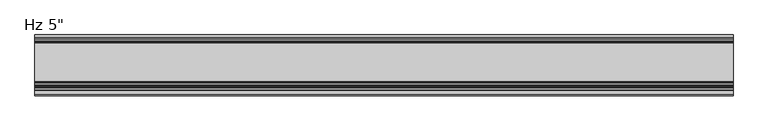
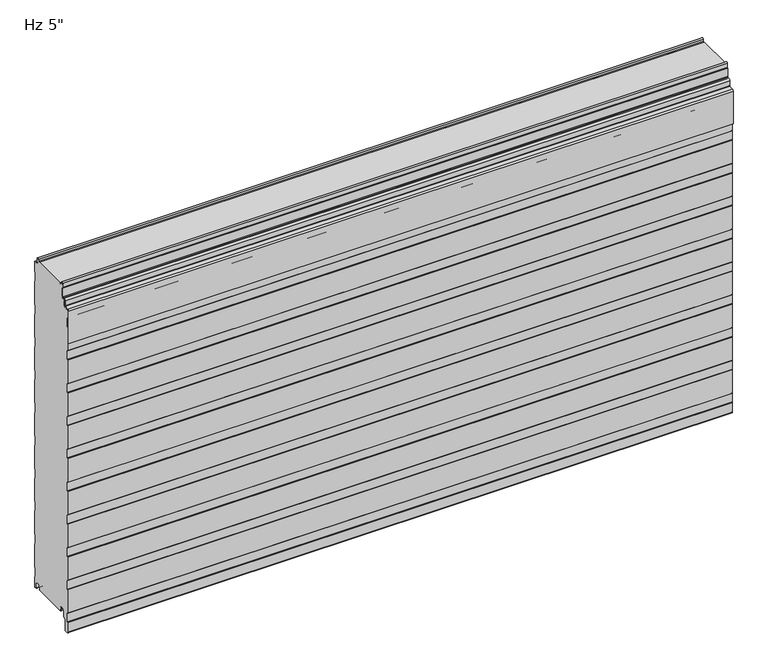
"""IFC4 building model written with IfcOpenShell, lengths in millimetres: plate geometry."""

from ifc_helpers import new_model, si_unit, point, frame, frame_2d, origin, place, context, project, spatial, polyline, circle_curve, trimmed, segment, composite_curve, outline, extrude, source, transform, mapped, element, save
from ifc_brep_helpers import plane_surface, cylinder_surface, revolved_surface, advanced_brep


def plate_844c534e(model_context):
    return source(origin(), model_context, "Body", "SolidModel", [
        advanced_brep(
        [(730.0, -105.9008679, 735.9534183), (730.0, -105.9008679, 754.6986183), (730.0, -107.4248679, 754.6986183), (730.0, -107.4248679, 735.9534183), (730.0, -108.9488679, 734.4294183), (730.0, -112.0476679, 734.4294183), (730.0, -115.5020679, 730.9750183), (730.0, -115.5020679, 719.762461), (730.0, -116.1976552, 719.0033606), (730.0, -125.7416507, 717.808533), (730.0, -128.524, 714.7721316), (730.0, -128.5360323, 639.2048183), (730.0, -127.0, 639.2048183), (730.0, -127.0, 714.7721316), (730.0, -125.6088254, 716.2903323), (730.0, -116.0648299, 717.4851599), (730.0, -113.9780679, 719.762461), (730.0, -113.9780679, 730.9750183), (730.0, -112.0476679, 732.9054183), (730.0, -108.9488679, 732.9054183), (-730.0, -105.9008679, 735.9534183), (-730.0, -108.9488679, 732.9054183), (-730.0, -112.0476679, 732.9054183), (-730.0, -113.9780679, 730.9750183), (-730.0, -113.9780679, 719.762461), (-730.0, -116.0648299, 717.4851599), (-730.0, -125.6088254, 716.2903323), (-730.0, -127.0, 714.7721316), (-730.0, -127.0, 639.2048183), (-730.0, -128.5360323, 639.2048183), (-730.0, -128.5360323, 714.7721316), (-730.0, -125.7416507, 717.808533), (-730.0, -116.1976552, 719.0033606), (-730.0, -115.5020679, 719.762461), (-730.0, -115.5020679, 730.9750183), (-730.0, -112.0476679, 734.4294183), (-730.0, -108.9488679, 734.4294183), (-730.0, -107.4248679, 735.9534183), (-730.0, -107.4248679, 754.6986183), (-730.0, -105.9008679, 754.6986183)],
        [
            (0, 1),
            (1, 2),
            (2, 3),
            (3, 4, circle_curve(frame((730.0, -108.9488679, 735.9534183), z_axis=(-1.0, 0.0, 0.0), x_axis=(0.0, 1.0, 0.0)), 1.524)),
            (4, 5),
            (5, 6, circle_curve(frame((730.0, -112.0476679, 730.9750183), z_axis=(1.0, 0.0, 0.0), x_axis=(0.0, 1.0, 0.0)), 3.4544)),
            (6, 7),
            (7, 8, circle_curve(frame((730.0, -116.2640679, 719.762461), z_axis=(-1.0, 0.0, 0.0), x_axis=(0.0, 1.0, 0.0)), 0.762)),
            (8, 9),
            (9, 10, circle_curve(frame((730.0, -125.476, 714.7721316), z_axis=(1.0, 0.0, 0.0), x_axis=(0.0, 1.0, 0.0)), 3.048)),
            (10, 11),
            (11, 12),
            (12, 13),
            (13, 14, circle_curve(frame((730.0, -125.476, 714.7721316), z_axis=(-1.0, 0.0, 0.0), x_axis=(0.0, 1.0, 0.0)), 1.524)),
            (14, 15),
            (15, 16, circle_curve(frame((730.0, -116.2640679, 719.762461), z_axis=(1.0, 0.0, 0.0), x_axis=(0.0, 1.0, 0.0)), 2.286)),
            (16, 17),
            (17, 18, circle_curve(frame((730.0, -112.0476679, 730.9750183), z_axis=(-1.0, 0.0, 0.0), x_axis=(0.0, 1.0, 0.0)), 1.9304)),
            (18, 19),
            (19, 0, circle_curve(frame((730.0, -108.9488679, 735.9534183), z_axis=(1.0, 0.0, 0.0), x_axis=(0.0, 1.0, 0.0)), 3.048)),
            (20, 21, circle_curve(frame((-730.0, -108.9488679, 735.9534183), z_axis=(-1.0, 0.0, 0.0), x_axis=(0.0, 1.0, 0.0)), 3.048)),
            (21, 22),
            (22, 23, circle_curve(frame((-730.0, -112.0476679, 730.9750183), z_axis=(1.0, 0.0, 0.0), x_axis=(0.0, 1.0, 0.0)), 1.9304)),
            (23, 24),
            (24, 25, circle_curve(frame((-730.0, -116.2640679, 719.762461), z_axis=(-1.0, 0.0, 0.0), x_axis=(0.0, 1.0, 0.0)), 2.286)),
            (25, 26),
            (26, 27, circle_curve(frame((-730.0, -125.476, 714.7721316), z_axis=(1.0, 0.0, 0.0), x_axis=(0.0, 1.0, 0.0)), 1.524)),
            (27, 28),
            (28, 29),
            (29, 30),
            (30, 31, circle_curve(frame((-730.0, -125.476, 714.7721316), z_axis=(-1.0, 0.0, 0.0), x_axis=(0.0, 1.0, 0.0)), 3.048)),
            (31, 32),
            (32, 33, circle_curve(frame((-730.0, -116.2640679, 719.762461), z_axis=(1.0, 0.0, 0.0), x_axis=(0.0, 1.0, 0.0)), 0.762)),
            (33, 34),
            (34, 35, circle_curve(frame((-730.0, -112.0476679, 730.9750183), z_axis=(-1.0, 0.0, 0.0), x_axis=(0.0, 1.0, 0.0)), 3.4544)),
            (35, 36),
            (36, 37, circle_curve(frame((-730.0, -108.9488679, 735.9534183), z_axis=(1.0, 0.0, 0.0), x_axis=(0.0, 1.0, 0.0)), 1.524)),
            (37, 38),
            (38, 39),
            (39, 20),
            (2, 38),
            (37, 3),
            (15, 25),
            (24, 16),
            (7, 33),
            (32, 8),
            (5, 35),
            (34, 6),
            (1, 39),
            (36, 4),
            (9, 31),
            (30, 10),
            (13, 27),
            (26, 14),
            (0, 20),
            (12, 28),
            (29, 11),
            (23, 17),
            (18, 22),
            (21, 19),
        ],
        [
            plane_surface(frame((730.0, -127.0, 754.6986183), z_axis=(1.0, 0.0, 0.0), x_axis=(0.0, 0.0, -1.0))),
            plane_surface(frame((-730.0, -127.0, 754.6986183), z_axis=(-1.0, 0.0, 0.0), x_axis=(0.0, 0.0, -1.0))),
            plane_surface(frame((730.0, -107.4248679, 735.9534183), z_axis=(0.0, -1.0, 0.0), x_axis=(-1.0, 0.0, 0.0))),
            cylinder_surface(frame((730.0, -116.2640679, 719.762461), z_axis=(1.0, 0.0, 0.0), x_axis=(0.0, 1.0, 0.0)), 2.286),
            revolved_surface(polyline([(-730.0, -115.5020679, 719.762461), (730.0, -115.5020679, 719.762461)]), (730.0, -116.2640679, 719.762461), (-1.0, 0.0, 0.0)),
            cylinder_surface(frame((730.0, -112.0476679, 730.9750183), z_axis=(1.0, 0.0, 0.0), x_axis=(0.0, 1.0, 0.0)), 3.4544),
            plane_surface(frame((730.0, -107.4248679, 754.6986183), z_axis=(0.0, 0.0, 1.0), x_axis=(-1.0, 0.0, 0.0))),
            revolved_surface(polyline([(-730.0, -107.4248679, 735.9534183), (730.0, -107.4248679, 735.9534183)]), (730.0, -108.9488679, 735.9534183), (-1.0, 0.0, 0.0)),
            cylinder_surface(frame((730.0, -125.476, 714.7721316), z_axis=(1.0, 0.0, 0.0), x_axis=(0.0, 1.0, 0.0)), 3.048),
            revolved_surface(polyline([(-730.0, -123.952, 714.7721316), (730.0, -123.952, 714.7721316)]), (730.0, -125.476, 714.7721316), (-1.0, 0.0, 0.0)),
            plane_surface(frame((730.0, -105.9008679, 754.6986183), z_axis=(0.0, 1.0, 0.0), x_axis=(-1.0, 0.0, 0.0))),
            plane_surface(frame((730.0, -116.0648299, 717.4851599), z_axis=(0.0, 0.12422187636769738, -0.9922544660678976), x_axis=(-1.0, 0.0, 0.0))),
            plane_surface(frame((730.0, -127.0, 714.7721316), z_axis=(0.0, 1.0, 0.0), x_axis=(-1.0, 0.0, 0.0))),
            plane_surface(frame((730.0, -125.7416507, 717.808533), z_axis=(0.0, -0.12422187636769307, 0.9922544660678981), x_axis=(-1.0, 0.0, 0.0))),
            plane_surface(frame((730.0, -112.0476679, 734.4294183), z_axis=(0.0, 0.0, 1.0), x_axis=(-1.0, 0.0, 0.0))),
            plane_surface(frame((730.0, -128.5360323, 639.2048183), z_axis=(0.0, -1.0, 0.0), x_axis=(-1.0, 0.0, 0.0))),
            plane_surface(frame((730.0, -127.0, 639.2048183), z_axis=(0.0, 0.0, -1.0), x_axis=(-1.0, 0.0, 0.0))),
            plane_surface(frame((730.0, -113.9780679, 730.9750183), z_axis=(0.0, 1.0, 0.0), x_axis=(-1.0, 0.0, 0.0))),
            plane_surface(frame((730.0, -108.9488679, 732.9054183), z_axis=(0.0, 0.0, -1.0), x_axis=(-1.0, 0.0, 0.0))),
            plane_surface(frame((730.0, -115.5020679, 719.762461), z_axis=(0.0, -1.0, 0.0), x_axis=(-1.0, 0.0, 0.0))),
            revolved_surface(polyline([(-730.0, -110.11726789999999, 730.9750183), (730.0, -110.11726789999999, 730.9750183)]), (730.0, -112.0476679, 730.9750183), (-1.0, 0.0, 0.0)),
            cylinder_surface(frame((730.0, -108.9488679, 735.9534183), z_axis=(1.0, 0.0, 0.0), x_axis=(0.0, 1.0, 0.0)), 3.048),
        ],
        [
            (0, [[1, 2, 3, 4, 5, 6, 7, 8, 9, 10, 11, 12, 13, 14, 15, 16, 17, 18, 19, 20]]),
            (1, [[21, 22, 23, 24, 25, 26, 27, 28, 29, 30, 31, 32, 33, 34, 35, 36, 37, 38, 39, 40]]),
            (2, [[41, -38, 42, -3]]),
            (3, [[43, -25, 44, -16]]),
            (4, [[45, -33, 46, -8]]),
            (5, [[47, -35, 48, -6]]),
            (6, [[49, -39, -41, -2]]),
            (7, [[-42, -37, 50, -4]]),
            (8, [[51, -31, 52, -10]]),
            (9, [[53, -27, 54, -14]]),
            (10, [[55, -40, -49, -1]]),
            (11, [[-54, -26, -43, -15]]),
            (12, [[56, -28, -53, -13]]),
            (13, [[-46, -32, -51, -9]]),
            (14, [[-50, -36, -47, -5]]),
            (15, [[-52, -30, 57, -11]]),
            (16, [[-57, -29, -56, -12]]),
            (17, [[-44, -24, 58, -17]]),
            (18, [[59, -22, 60, -19]]),
            (19, [[-48, -34, -45, -7]]),
            (20, [[-58, -23, -59, -18]]),
            (21, [[-60, -21, -55, -20]]),
        ],
    ),
        extrude(outline(composite_curve([segment(trimmed(circle_curve(frame_2d((-98.706538, 2.2313092)), 1.1999976), [point((-98.6760161, 1.0316999))], [point((-97.5065413, 2.2328239))], True, "CARTESIAN"), True, "CONTINUOUS"), segment(polyline([(-97.5065413, 2.2328239), (-97.5065413, 5.9912173), (-98.9050202, 5.9912173), (-98.9050202, 8.6903283)]), True, "CONTINUOUS"), segment(trimmed(circle_curve(frame_2d((-102.2550155, 8.6903283)), 3.3499953), [point((-98.9050202, 8.6903283))], [point((-102.2550155, 12.0403236))], True, "CARTESIAN"), True, "CONTINUOUS"), segment(polyline([(-102.2550155, 12.0403236), (-106.6550067, 12.0403236)]), True, "CONTINUOUS"), segment(trimmed(circle_curve(frame_2d((-106.6550067, 8.6903283)), 3.3499953), [point((-106.6550067, 12.0403236))], [point((-110.005002, 8.6903283))], True, "CARTESIAN"), True, "CONTINUOUS"), segment(polyline([(-110.005002, 8.6903283), (-110.005002, -3.1205608)]), True, "CONTINUOUS"), segment(trimmed(circle_curve(frame_2d((-111.7049966, -3.1205608)), 1.6999946), [point((-110.005002, -3.1205608))], [point((-110.5029189, -4.3226385))], False, "CARTESIAN"), True, "CONTINUOUS"), segment(polyline([(-110.5029189, -4.3226385), (-116.00499, -9.8247096), (-116.00499, -31.9198392)]), True, "CONTINUOUS"), segment(trimmed(circle_curve(frame_2d((-118.7049826, -31.9198392)), 2.6999926), [point((-116.00499, -31.9198392))], [point((-118.223592, -34.5765709))], False, "CARTESIAN"), True, "CONTINUOUS"), segment(polyline([(-118.223592, -34.5765709), (-123.2054129, -35.0125699)]), True, "CONTINUOUS"), segment(trimmed(circle_curve(frame_2d((-123.4294985, -32.4521176)), 2.5702393), [point((-123.2054129, -35.0125699))], [point((-125.9997378, -32.4521176))], False, "CARTESIAN"), True, "CONTINUOUS"), segment(polyline([(-125.9997378, -32.4521176), (-125.9997378, -10.4790962), (-124.7997693, -9.2791277), (-124.7997693, 10.4402849), (-126.0, 11.6405156), (-126.0, 65.7206473), (-124.7997693, 66.920878), (-124.7997693, 86.6402905), (-126.0, 87.8405213), (-126.0, 141.920653), (-124.7997693, 143.1208837), (-124.7997693, 162.8402962), (-126.0, 164.0405269), (-126.0, 218.1206587), (-124.7997693, 219.3208894), (-124.7997693, 239.0403019), (-126.0, 240.2405326), (-126.0, 294.3206644), (-124.7997693, 295.5208951), (-124.7997693, 315.2403076), (-126.0, 316.4405383), (-126.0, 370.5206701), (-124.7997693, 371.7209008), (-124.7997693, 391.4403133), (-126.0, 392.640544), (-126.0, 446.7206758), (-124.7997693, 447.9209065), (-124.7997693, 467.640319), (-126.0, 468.8405497), (-126.0, 522.9206815), (-124.7997693, 524.1209122), (-124.7997693, 543.8403247), (-126.0, 545.0405554), (-126.0, 599.1206872), (-124.7997693, 600.3209179), (-124.7997693, 620.0403304), (-126.0, 621.2405611), (-126.0, 675.3206929), (-124.7997693, 676.5209236), (-124.7997693, 696.2403361), (-126.0051411, 697.4457079), (-126.0051411, 713.5156233)]), True, "CONTINUOUS"), segment(trimmed(circle_curve(frame_2d((-124.0461194, 713.5156233)), 1.9590216), [point((-126.0051411, 713.5156233))], [point((-124.2178029, 715.4671075))], False, "CARTESIAN"), True, "CONTINUOUS"), segment(polyline([(-124.2178029, 715.4671075), (-115.7590902, 716.221161)]), True, "CONTINUOUS"), segment(trimmed(circle_curve(frame_2d((-116.0231732, 719.2396267)), 3.0299959), [point((-115.7590902, 716.221161))], [point((-112.9957873, 719.3653654))], True, "CARTESIAN"), True, "CONTINUOUS"), segment(polyline([(-112.9957873, 719.3653654), (-112.9957873, 729.4583308)]), True, "CONTINUOUS"), segment(trimmed(circle_curve(frame_2d((-112.0443786, 729.4583308)), 0.9514087), [point((-112.9957873, 729.4583308))], [point((-112.0443786, 730.4097394))], False, "CARTESIAN"), True, "CONTINUOUS"), segment(polyline([(-112.0443786, 730.4097394), (-108.9007233, 730.4097394)]), True, "CONTINUOUS"), segment(trimmed(circle_curve(frame_2d((-108.9007233, 734.4091924)), 3.9994529), [point((-108.9007233, 730.4097394))], [point((-104.9012703, 734.4091924))], True, "CARTESIAN"), True, "CONTINUOUS"), segment(polyline([(-104.9012703, 734.4091924), (-104.9012703, 755.5895515), (-106.8821181, 756.7334028), (-106.5268578, 765.706811)]), True, "CONTINUOUS"), segment(trimmed(circle_curve(frame_2d((-104.4266291, 765.6236622)), 2.1018739), [point((-106.5268578, 765.706811))], [point((-102.3262802, 765.7037148))], False, "CARTESIAN"), True, "CONTINUOUS"), segment(polyline([(-102.3262802, 765.7037148), (-102.0818653, 761.6977997)]), True, "CONTINUOUS"), segment(trimmed(circle_curve(frame_2d((-100.2434917, 761.8099653)), 1.8417922), [point((-102.0818653, 761.6977997))], [point((-100.2870527, 759.9686884))], True, "CARTESIAN"), True, "CONTINUOUS"), segment(polyline([(-100.2870527, 759.9686884), (-97.5025061, 759.9686884), (-97.5025061, 760.9686884), (-99.0900061, 760.9686884), (-98.0586945, 762.0), (-18.6184525, 762.0), (-17.5871409, 760.9686884), (-19.0015288, 760.9686884), (-19.0015288, 759.9686884), (-16.6743462, 759.9686884)]), True, "CONTINUOUS"), segment(trimmed(circle_curve(frame_2d((-16.6743462, 761.7186869)), 1.7499985), [point((-16.6743462, 759.9686884))], [point((-14.9256429, 761.6513685))], True, "CARTESIAN"), True, "CONTINUOUS"), segment(polyline([(-14.9256429, 761.6513685), (-14.7059822, 765.7921924)]), True, "CONTINUOUS"), segment(trimmed(circle_curve(frame_2d((-12.5552871, 765.6781032)), 2.153719), [point((-14.7059822, 765.7921924))], [point((-10.4046442, 765.7931719))], False, "CARTESIAN"), True, "CONTINUOUS"), segment(polyline([(-10.4046442, 765.7931719), (-9.9974365, 757.3016499)]), True, "CONTINUOUS"), segment(trimmed(circle_curve(frame_2d((-5.9867338, 757.4939817)), 4.0153117), [point((-9.9974365, 757.3016499))], [point((-6.0026007, 753.4787013))], True, "CARTESIAN"), True, "CONTINUOUS"), segment(polyline([(-6.0026007, 753.4787013), (-1.0, 753.4787013), (-1.0, 728.9790963), (-2.2002307, 727.5934634), (-2.2002307, 708.2182971), (-1.0, 706.8326641), (-1.0, 652.7792487), (-2.2002307, 651.3936158), (-2.2002307, 632.0184495), (-1.0, 630.6328165), (-1.0, 576.5794011), (-2.2002307, 575.1937682), (-2.2002307, 555.8186019), (-1.0, 554.4329689), (-1.0, 500.3795535), (-2.2002307, 498.9939206), (-2.2002307, 479.6187543), (-1.0, 478.2331213), (-1.0, 424.1797059), (-2.2002307, 422.794073), (-2.2002307, 403.4189067), (-1.0, 402.0332737), (-1.0, 347.9798583), (-2.2002307, 346.5942254), (-2.2002307, 327.2190591), (-1.0, 325.8334261), (-1.0, 271.7800107), (-2.2002307, 270.3943778), (-2.2002307, 251.0192115), (-1.0, 249.6335785), (-1.0, 195.5801631), (-2.2002307, 194.1945302), (-2.2002307, 174.8193639), (-1.0, 173.4337309), (-1.0, 119.3803155), (-2.2002307, 117.9946826), (-2.2002307, 98.6195163), (-1.0, 97.2338833), (-1.0, 43.1804679), (-2.2002307, 41.794835), (-2.2002307, 22.4196687), (-0.9999916, 21.034026), (-0.9999916, -3.4662506), (-5.2315389, -3.4662506)]), True, "CONTINUOUS"), segment(trimmed(circle_curve(frame_2d((-5.2315389, -1.6962564)), 1.7699942), [point((-5.2315389, -3.4662506))], [point((-7.0015331, -1.6962564))], False, "CARTESIAN"), True, "CONTINUOUS"), segment(polyline([(-7.0015331, -1.6962564), (-7.0015331, 8.7237222)]), True, "CONTINUOUS"), segment(trimmed(circle_curve(frame_2d((-10.301529, 8.7237222)), 3.2999959), [point((-7.0015331, 8.7237222))], [point((-10.301529, 12.023718))], True, "CARTESIAN"), True, "CONTINUOUS"), segment(polyline([(-10.301529, 12.023718), (-14.7015202, 12.023718)]), True, "CONTINUOUS"), segment(trimmed(circle_curve(frame_2d((-14.7015202, 8.7237223)), 3.2999957), [point((-14.7015202, 12.023718))], [point((-18.0015159, 8.7237223))], True, "CARTESIAN"), True, "CONTINUOUS"), segment(polyline([(-18.0015159, 8.7237223), (-18.0015159, 6.0315125), (-19.0015105, 6.0315125), (-19.0015105, 2.0313089)]), True, "CONTINUOUS"), segment(trimmed(circle_curve(frame_2d((-18.0015133, 2.0313089)), 0.9999972), [point((-19.0015105, 2.0313089))], [point((-18.0015192, 1.0313117))], True, "CARTESIAN"), True, "CONTINUOUS"), segment(polyline([(-18.0015192, 1.0313117), (-19.0328308, 0.0), (-97.6443162, 0.0), (-98.6760161, 1.0316999)]), True, "CONTINUOUS")], self_intersect=False)), frame((-730.0, 0.0, 0.0), z_axis=(1.0, 0.0, 0.0), x_axis=(0.0, 1.0, 0.0)), (0.0, 0.0, 1.0), 1460.0),
    ])


if __name__ == "__main__":
    model = new_model("IFC4")
    model_context = context("Model", 3, world=origin())
    ifc_project = project(units=[si_unit("LENGTHUNIT", "METRE", prefix="MILLI")], contexts=[model_context])
    site = spatial("IfcSite", under=ifc_project)
    building = spatial("IfcBuilding", under=site)
    placement = place(None, origin())
    plate_shape = plate_844c534e(model_context)
    element("IfcPlate", 1, ObjectType="KIP-30-Karrier-KP-R19-CP-Hz-SL_SL : Hz 5\"", at=placement, inside=building, context=model_context, shape_type="MappedRepresentation", body=[
        mapped(plate_shape, transform((0.0, 0.0, 0.0), x_axis=(1.0, 0.0, 0.0), y_axis=(0.0, 1.0, 0.0), z_axis=(0.0, 0.0, 1.0))),
    ])
    save(model, "model.ifc")
